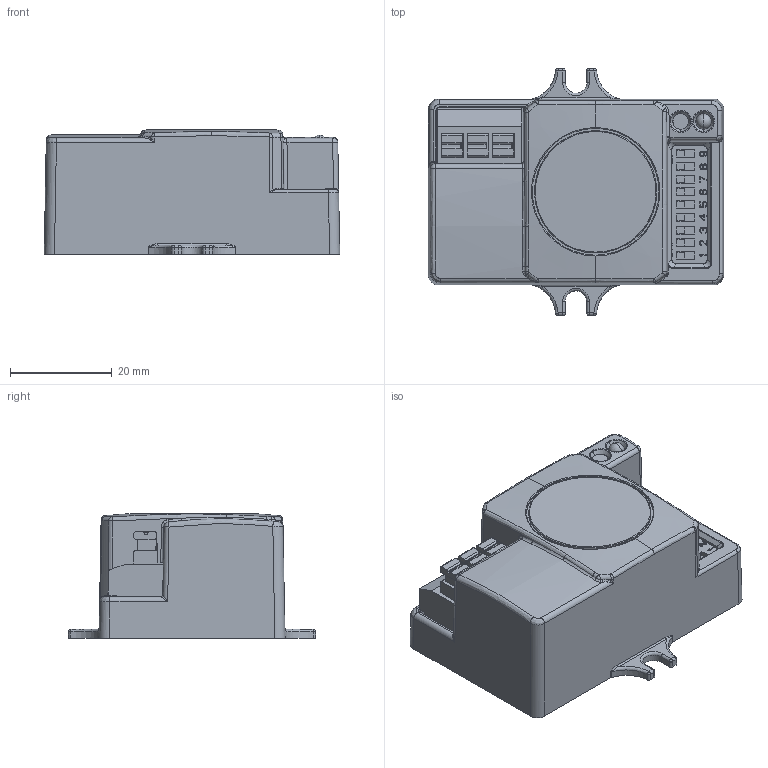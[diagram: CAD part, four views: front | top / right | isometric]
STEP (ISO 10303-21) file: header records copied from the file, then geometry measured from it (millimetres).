
FILE_DESCRIPTION((''),'2;1');
FILE_NAME('15012017Z_58X48-5X24-5_HF5DPSF','2017-12-15T',('Emanuel.Wild'),(''),'PRO/ENGINEER BY PARAMETRIC TECHNOLOGY CORPORATION, 2015200','PRO/ENGINEER BY PARAMETRIC TECHNOLOGY CORPORATION, 2015200','');
FILE_SCHEMA(('AUTOMOTIVE_DESIGN { 1 0 10303 214 1 1 1 1 }'));
Length unit declared in the file: millimetre
Products named in the file (1): 15012017Z_58X48-5X24-5_HF5DPSF
Bounding box: 58 x 48.5 x 24.5 mm (x, y, z)
Volume: 32040.6 mm3; surface area: 25131.6 mm2
Topology: 4 solids, 5 shells, 1165 faces, 3160 edges, 2042 vertices
Faces by surface type: plane 814, cylinder 192, bspline 86, torus 34, cone 24, sphere 15
Entity records: 40875 total; most frequent: CARTESIAN_POINT 12106, ORIENTED_EDGE 6290, DIRECTION 5302, EDGE_CURVE 3145, VECTOR 2406, LINE 2406, VERTEX_POINT 2042, AXIS2_PLACEMENT_3D 1448
